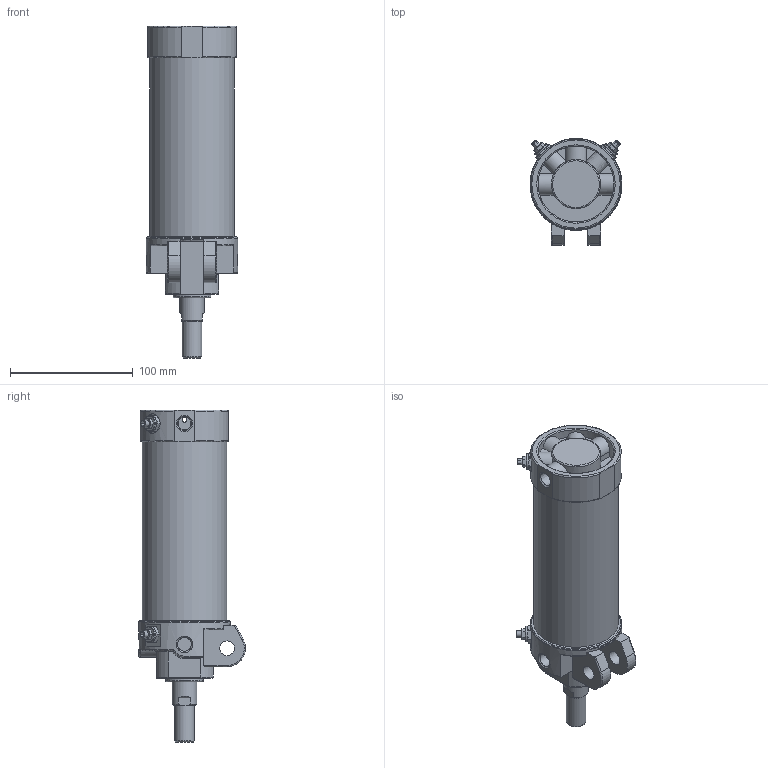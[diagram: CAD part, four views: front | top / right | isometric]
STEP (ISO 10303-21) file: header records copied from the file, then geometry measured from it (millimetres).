
FILE_DESCRIPTION((''),'2;1');
FILE_NAME('I:\3D電子目錄\氣缸\DCK\DCK\DCK-1B-63x100.stp','2008-02-26T15:18:41',('Administrator'),(''),'Autodesk Inventor 11','Autodesk Inventor 11','');
FILE_SCHEMA(('AUTOMOTIVE_DESIGN { 1 0 10303 214 1 1 1 1 }'));
Length unit declared in the file: millimetre
Products named in the file (6): DCK-1B-63; 緩衝針; 緩衝針-1; 緩衝針-201; 緩衝針-3
Assembly tree (8 placements, depth 3):
  DCK-1B-63
    DCK-1B-63
    緩衝針  x4
      緩衝針-1
      緩衝針-201
      緩衝針-3
Bounding box: 75 x 87.29 x 271 mm (x, y, z)
Volume: 340022.5 mm3; surface area: 135983.5 mm2
Topology: 16 solids, 16 shells, 588 faces, 1291 edges, 803 vertices
Faces by surface type: plane 217, cylinder 167, cone 131, torus 42, bspline 31
Full cylindrical faces by diameter (mm): 2 x1, 3 x2, 3.8 x2, 4 x6, 4.6 x4, 5 x8, 5.1 x4, 5.2 x12, 5.5 x4, 7 x1, 7.25 x1, 7.9 x4, 8 x2, 11.3 x3, 12 x2, 12.8 x4, 16 x2, 20 x1, 21 x1, 22 x2, 23 x1, 24.7 x1, 26 x1, 27 x1, 28 x1, 29 x1, 31 x1, 33 x1, 62 x1, 62.7 x1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
Entity records: 12345 total; most frequent: CARTESIAN_POINT 5236, DIRECTION 1435, ORIENTED_EDGE 1302, EDGE_CURVE 651, AXIS2_PLACEMENT_3D 626, EDGE_LOOP 507, VERTEX_POINT 468, FACE_OUTER_BOUND 339
